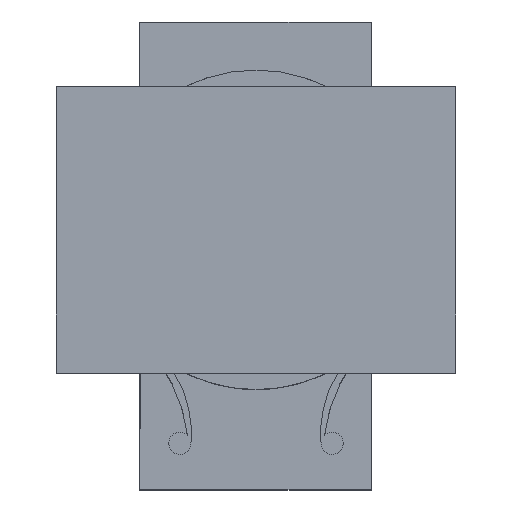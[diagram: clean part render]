
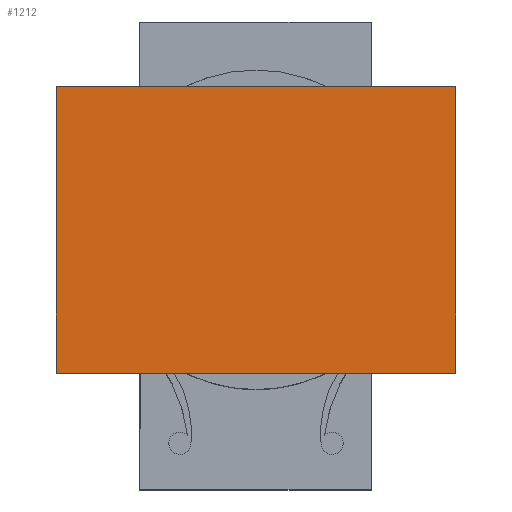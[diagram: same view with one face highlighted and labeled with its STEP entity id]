
A CAD part, top view. The second image highlights one B-rep face of the part: STEP entity #1212.
In plain terms, the highlighted planar face has unit normal (0, 0, 1).
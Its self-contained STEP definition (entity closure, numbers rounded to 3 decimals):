
#657 = VERTEX_POINT('',#658);
#658 = CARTESIAN_POINT('',(13.45,9.65,13.2));
#664 = EDGE_CURVE('',#657,#665,#667,.T.);
#665 = VERTEX_POINT('',#666);
#666 = CARTESIAN_POINT('',(-13.45,9.65,13.2));
#667 = LINE('',#668,#669);
#668 = CARTESIAN_POINT('',(13.45,9.65,13.2));
#669 = VECTOR('',#670,1.);
#670 = DIRECTION('',(-1.,0.,0.));
#695 = VERTEX_POINT('',#696);
#696 = CARTESIAN_POINT('',(13.45,-9.65,13.2));
#702 = EDGE_CURVE('',#695,#657,#703,.T.);
#703 = LINE('',#704,#705);
#704 = CARTESIAN_POINT('',(13.45,-9.65,13.2));
#705 = VECTOR('',#706,1.);
#706 = DIRECTION('',(0.,1.,0.));
#719 = VERTEX_POINT('',#720);
#720 = CARTESIAN_POINT('',(-13.45,-9.65,13.2));
#726 = EDGE_CURVE('',#719,#695,#727,.T.);
#727 = LINE('',#728,#729);
#728 = CARTESIAN_POINT('',(-13.45,-9.65,13.2));
#729 = VECTOR('',#730,1.);
#730 = DIRECTION('',(1.,0.,0.));
#907 = EDGE_CURVE('',#665,#719,#908,.T.);
#908 = LINE('',#909,#910);
#909 = CARTESIAN_POINT('',(-13.45,9.65,13.2));
#910 = VECTOR('',#911,1.);
#911 = DIRECTION('',(0.,-1.,0.));
#1212 = ADVANCED_FACE('',(#1213),#1219,.T.);
#1213 = FACE_BOUND('',#1214,.T.);
#1214 = EDGE_LOOP('',(#1215,#1216,#1217,#1218));
#1215 = ORIENTED_EDGE('',*,*,#726,.T.);
#1216 = ORIENTED_EDGE('',*,*,#702,.T.);
#1217 = ORIENTED_EDGE('',*,*,#664,.T.);
#1218 = ORIENTED_EDGE('',*,*,#907,.T.);
#1219 = PLANE('',#1220);
#1220 = AXIS2_PLACEMENT_3D('',#1221,#1222,#1223);
#1221 = CARTESIAN_POINT('',(0.,0.,13.2));
#1222 = DIRECTION('',(0.,0.,1.));
#1223 = DIRECTION('',(1.,0.,0.));
